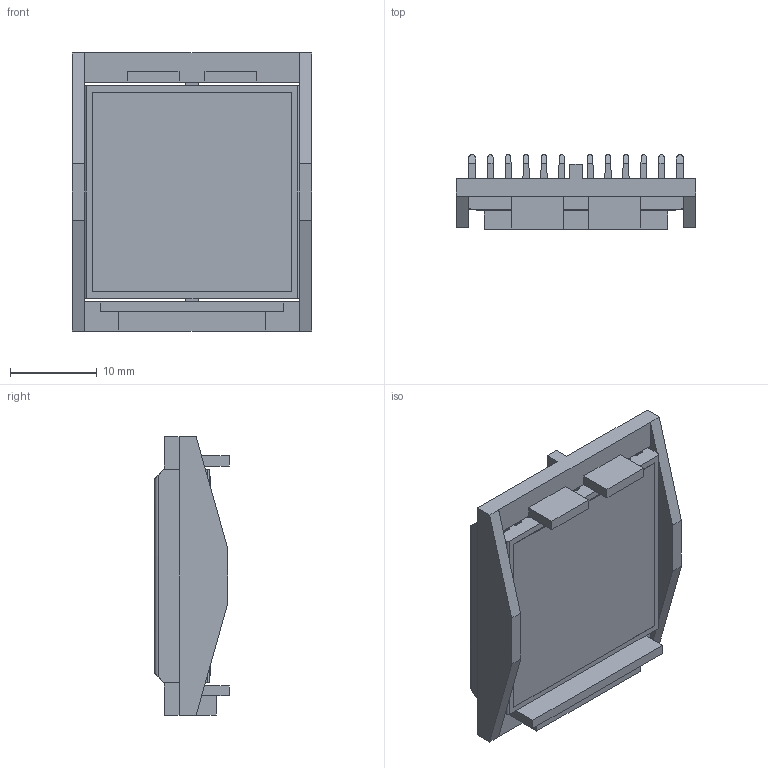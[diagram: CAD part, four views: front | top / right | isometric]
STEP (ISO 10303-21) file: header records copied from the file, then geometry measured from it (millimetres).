
FILE_DESCRIPTION (( 'STEP AP214' ), '1' );
FILE_NAME ('INL25001-6-1.7Y.STEP', '2023-02-21T19:28:22', ( '' ), ( '' ), 'SwSTEP 2.0', 'SolidWorks 2020', '' );
FILE_SCHEMA (( 'AUTOMOTIVE_DESIGN' ));
Length unit declared in the file: millimetre
Products named in the file (1): INL25001-6-1.7Y
Bounding box: 27.7 x 8.6 x 32.1 mm (x, y, z)
Volume: 3107.4 mm3; surface area: 6744.1 mm2
Topology: 3 solids, 3 shells, 152 faces, 440 edges, 292 vertices
Faces by surface type: plane 116, cylinder 36
Entity records: 6668 total; most frequent: CARTESIAN_POINT 957, ORIENTED_EDGE 880, DIRECTION 770, EDGE_CURVE 440, LINE 368, VECTOR 368, VERTEX_POINT 292, AXIS2_PLACEMENT_3D 201
